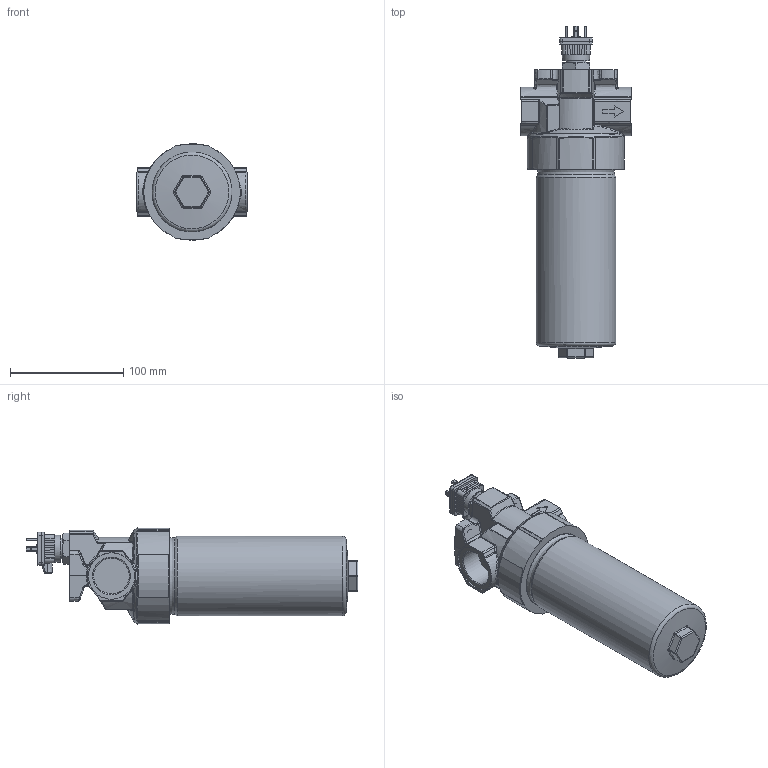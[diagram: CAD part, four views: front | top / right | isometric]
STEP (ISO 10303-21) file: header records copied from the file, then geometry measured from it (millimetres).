
FILE_DESCRIPTION((''),'2;1');
FILE_NAME('U:\Users\i.maeder\34308700_D112-186ED8.stp', '2016-08-29T09:32:17',('User'),('SDRC'),'I-DEAS Master Series 9','UNIX', 'Yes');
FILE_SCHEMA(('AUTOMOTIVE_DESIGN { 1 0 10303 214 1 1 1 1 }'));
Length unit declared in the file: millimetre
Products named in the file (1): 34308700
Bounding box: 98 x 292.9 x 84.95 mm (x, y, z)
Volume: 1003833 mm3; surface area: 82610.4 mm2
Topology: 1 solids, 2 shells, 1061 faces, 2879 edges, 1824 vertices
Faces by surface type: bspline 1061
Entity records: 45198 total; most frequent: CARTESIAN_POINT 28888, ORIENTED_EDGE 5688, EDGE_CURVE 2844, VERTEX_POINT 1824, B_SPLINE_CURVE_WITH_KNOTS 1723, EDGE_LOOP 1104, FACE_OUTER_BOUND 1061, ADVANCED_FACE 1061
